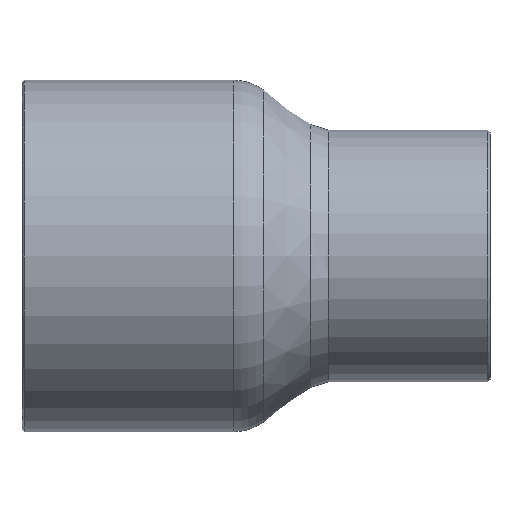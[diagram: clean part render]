
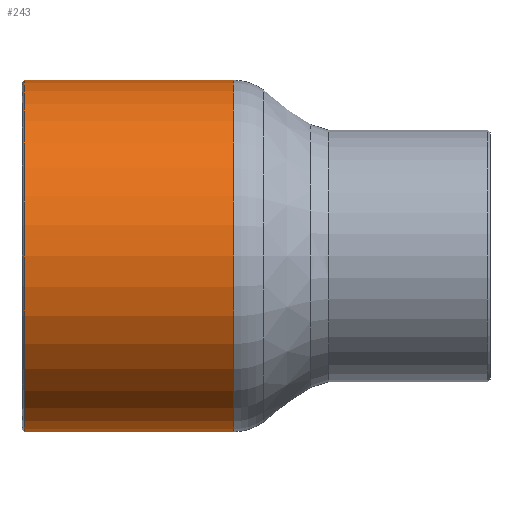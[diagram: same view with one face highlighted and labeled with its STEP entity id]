
A CAD part, front view. The second image highlights one B-rep face of the part: STEP entity #243.
In plain terms, the highlighted cylindrical face has radius 17.425 mm (diameter 34.85 mm), a full revolution.
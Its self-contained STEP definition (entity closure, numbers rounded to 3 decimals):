
#181=CARTESIAN_POINT('',(-20.8,-17.425,0.));
#182=VERTEX_POINT('',#181);
#183=CARTESIAN_POINT('',(-20.8,0.0,0.0));
#184=DIRECTION('',(-1.0,0.0,0.0));
#185=DIRECTION('',(0.0,1.0,0.0));
#186=AXIS2_PLACEMENT_3D('',#183,#184,#185);
#187=CIRCLE('',#186,17.425);
#188=EDGE_CURVE('',#182,#182,#187,.T.);
#224=CARTESIAN_POINT('',(-10.5,0.0,0.0));
#225=DIRECTION('',(-1.0,0.0,0.0));
#226=DIRECTION('',(0.0,-1.0,0.0));
#227=AXIS2_PLACEMENT_3D('',#224,#225,#226);
#228=CYLINDRICAL_SURFACE('',#227,17.425);
#229=CARTESIAN_POINT('',(0.,-17.425,0.0));
#230=VERTEX_POINT('',#229);
#231=CARTESIAN_POINT('',(0.0,0.0,0.0));
#232=DIRECTION('',(-1.0,0.0,0.0));
#233=DIRECTION('',(0.0,-1.0,0.0));
#234=AXIS2_PLACEMENT_3D('',#231,#232,#233);
#235=CIRCLE('',#234,17.425);
#236=EDGE_CURVE('',#230,#230,#235,.T.);
#237=ORIENTED_EDGE('',*,*,#236,.T.);
#238=EDGE_LOOP('',(#237));
#239=FACE_OUTER_BOUND('',#238,.T.);
#240=ORIENTED_EDGE('',*,*,#188,.F.);
#241=EDGE_LOOP('',(#240));
#242=FACE_BOUND('',#241,.T.);
#243=ADVANCED_FACE('',(#239,#242),#228,.T.);
